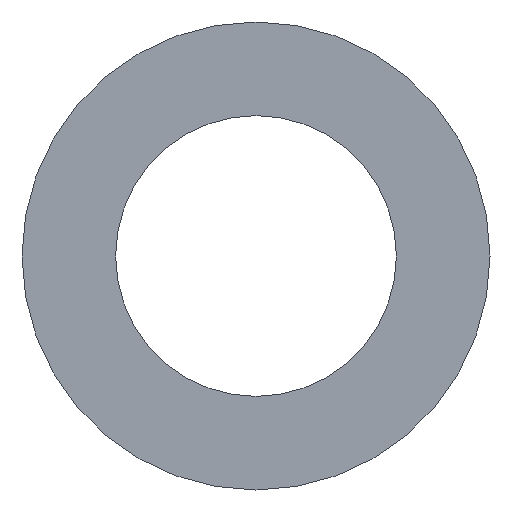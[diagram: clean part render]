
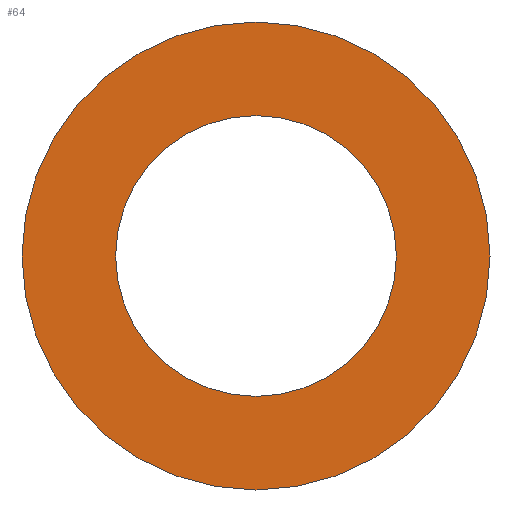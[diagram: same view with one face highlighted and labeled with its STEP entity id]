
A CAD part, left-side view. The second image highlights one B-rep face of the part: STEP entity #64.
In plain terms, the highlighted planar face has unit normal (-1, 0, 0).
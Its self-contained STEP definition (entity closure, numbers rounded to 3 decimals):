
#16=FACE_BOUND('',#28,.T.);
#18=PLANE('',#95);
#22=FACE_OUTER_BOUND('',#27,.T.);
#27=EDGE_LOOP('',(#57));
#28=EDGE_LOOP('',(#58));
#33=CIRCLE('',#89,9.);
#36=CIRCLE('',#93,15.);
#37=VERTEX_POINT('',#118);
#40=VERTEX_POINT('',#126);
#41=EDGE_CURVE('',#37,#37,#33,.T.);
#46=EDGE_CURVE('',#40,#40,#36,.T.);
#57=ORIENTED_EDGE('',*,*,#46,.T.);
#58=ORIENTED_EDGE('',*,*,#41,.T.);
#64=ADVANCED_FACE('',(#22,#16),#18,.T.);
#89=AXIS2_PLACEMENT_3D('',#119,#100,#101);
#93=AXIS2_PLACEMENT_3D('',#128,#110,#111);
#95=AXIS2_PLACEMENT_3D('',#130,#114,#115);
#100=DIRECTION('center_axis',(1.,0.,0.));
#101=DIRECTION('ref_axis',(0.,-1.,0.));
#110=DIRECTION('center_axis',(-1.,0.,0.));
#111=DIRECTION('ref_axis',(0.,-1.,0.));
#114=DIRECTION('center_axis',(-1.,0.,0.));
#115=DIRECTION('ref_axis',(0.,0.,1.));
#118=CARTESIAN_POINT('',(0.,9.,0.));
#119=CARTESIAN_POINT('Origin',(0.,0.,0.));
#126=CARTESIAN_POINT('',(0.,15.,0.));
#128=CARTESIAN_POINT('Origin',(0.,0.,0.));
#130=CARTESIAN_POINT('Origin',(0.,0.,0.));
